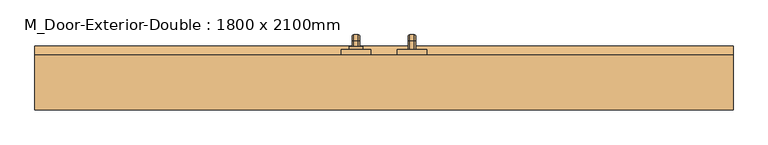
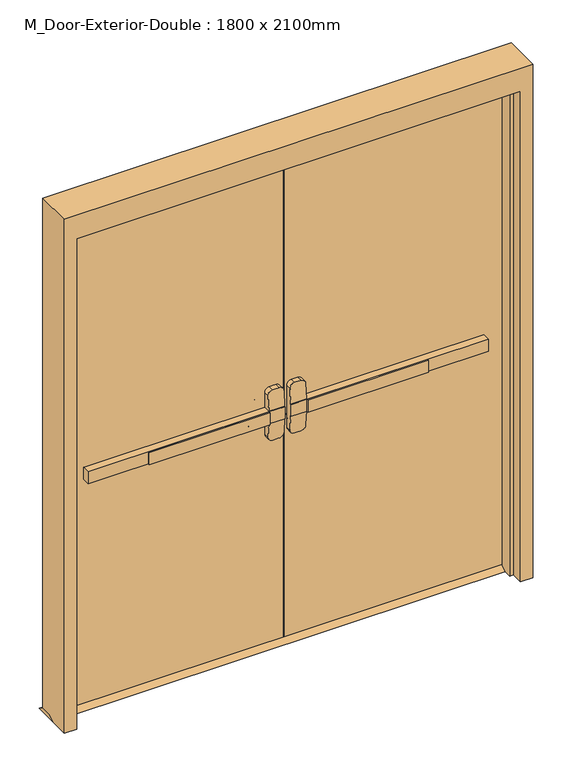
"""IFC4 building model written with IfcOpenShell, lengths in millimetres: door geometry, M_Door-Exterior-Double : 1800 x 2100mm."""

from ifc_helpers import new_model, si_unit, point, frame, frame_2d, origin, place, context, project, spatial, polyline, circle_curve, ellipse_curve, trimmed, segment, composite_curve, outline, extrude, faceted_brep, source, transform, mapped, element, save
from ifc_brep_helpers import plane_surface, cylinder_surface, revolved_surface, advanced_brep


def m_door_exterior_double_1800_x_2100mm_0d7f6d30(model_context):
    return source(origin(), model_context, "Body", "SolidModel", [
        extrude(outline(polyline([(-566.1333333, 13.25), (-566.1333333, 19.6), (-76.2, 19.6), (-76.2, 13.25), (-566.1333333, 13.25)])), frame((0.0, 0.0, 974.6), z_axis=(0.0, 0.0, 1.0), x_axis=(1.0, 0.0, 0.0)), (0.0, 0.0, 1.0), 50.8),
        advanced_brep(
        [(-12.7, 19.6, 1025.4), (-76.2, 19.6, 1025.4), (-811.1, 19.6, 1025.4), (-811.1, 19.6, 974.6), (-76.2, 19.6, 974.6), (-12.7, 19.6, 974.6), (-811.1, 51.35, 1025.4), (-76.2, 51.35, 1025.4), (-76.2, 51.35, 1088.9), (-57.15, 51.35, 1107.95), (-31.75, 51.35, 1107.95), (-12.7, 51.35, 1088.9), (-12.7, 51.35, 911.1), (-31.75, 51.35, 892.05), (-57.15, 51.35, 892.05), (-76.2, 51.35, 911.1), (-76.2, 51.35, 974.6), (-811.1, 51.35, 974.6), (-12.7, 22.7752467, 1025.4), (-76.2, 22.7752467, 1025.4), (-12.7, 22.7752467, 974.6), (-12.7, 27.7854269, 911.1), (-12.7, 27.7854269, 1088.9), (-76.2, 22.7752467, 974.6), (-76.2, 27.7854269, 1088.9), (-76.2, 27.7854269, 911.1), (-57.15, 29.288481, 1107.95), (-31.75, 29.288481, 1107.95), (-31.75, 29.288481, 892.05), (-57.15, 29.288481, 892.05)],
        [
            (0, 1),
            (1, 2),
            (2, 3),
            (3, 4),
            (4, 5),
            (5, 0),
            (6, 7),
            (7, 8),
            (8, 9, circle_curve(frame((-57.15, 51.35, 1088.9), z_axis=(0.0, 1.0, 0.0), x_axis=(-1.0, 0.0, 0.0)), 19.05)),
            (9, 10),
            (10, 11, circle_curve(frame((-31.75, 51.35, 1088.9), z_axis=(0.0, 1.0, 0.0), x_axis=(-1.0, 0.0, 0.0)), 19.05)),
            (11, 12),
            (12, 13, circle_curve(frame((-31.75, 51.35, 911.1), z_axis=(0.0, 1.0, 0.0), x_axis=(-1.0, 0.0, 0.0)), 19.05)),
            (13, 14),
            (14, 15, circle_curve(frame((-57.15, 51.35, 911.1), z_axis=(0.0, 1.0, 0.0), x_axis=(-1.0, 0.0, 0.0)), 19.05)),
            (15, 16),
            (16, 17),
            (17, 6),
            (0, 18),
            (18, 19),
            (19, 7),
            (6, 2),
            (5, 20),
            (20, 21),
            (21, 12),
            (11, 22),
            (22, 18),
            (16, 23),
            (23, 20),
            (3, 17),
            (19, 24),
            (24, 8),
            (15, 25),
            (25, 23),
            (9, 26),
            (26, 27),
            (27, 10),
            (13, 28),
            (28, 29),
            (29, 14),
            (29, 25, ellipse_curve(frame((-57.15, 27.7854269, 911.1), z_axis=(0.0, 0.9969018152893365, 0.07865602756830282), x_axis=(0.0, -0.07865602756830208, 0.9969018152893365)), 19.1092038, 19.05)),
            (24, 26, ellipse_curve(frame((-57.15, 27.7854269, 1088.9), z_axis=(0.0, 0.9969018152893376, -0.07865602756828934), x_axis=(0.0, -0.078656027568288, -0.9969018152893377)), 19.1092038, 19.05)),
            (27, 22, ellipse_curve(frame((-31.75, 27.7854269, 1088.9), z_axis=(0.0, 0.9969018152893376, -0.07865602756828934), x_axis=(0.0, -0.078656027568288, -0.9969018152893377)), 19.1092038, 19.05)),
            (21, 28, ellipse_curve(frame((-31.75, 27.7854269, 911.1), z_axis=(0.0, 0.9969018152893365, 0.07865602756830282), x_axis=(0.0, -0.07865602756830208, 0.9969018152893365)), 19.1092038, 19.05)),
        ],
        [
            plane_surface(frame((-12.7, 19.6, 1025.4), z_axis=(0.0, -1.0, 0.0), x_axis=(1.0, 0.0, 0.0))),
            plane_surface(frame((-12.7, 51.35, 1025.4), z_axis=(0.0, 1.0, 0.0), x_axis=(-1.0, 0.0, 0.0))),
            plane_surface(frame((-811.1, 19.6, 1025.4), z_axis=(0.0, 0.0, 1.0), x_axis=(0.0, 1.0, 0.0))),
            plane_surface(frame((-12.7, 19.6, 1025.4), z_axis=(1.0, 0.0, 0.0), x_axis=(0.0, 1.0, 0.0))),
            plane_surface(frame((-12.7, 19.6, 974.6), z_axis=(0.0, 0.0, -1.0), x_axis=(0.0, 1.0, 0.0))),
            plane_surface(frame((-811.1, 19.6, 974.6), z_axis=(-1.0, 0.0, 0.0), x_axis=(0.0, 1.0, 0.0))),
            plane_surface(frame((-76.2, 22.7752467, 911.1), z_axis=(-1.0, 0.0, 0.0), x_axis=(0.0, 1.0, 0.0))),
            plane_surface(frame((-57.15, 22.7752467, 1107.95), z_axis=(0.0, 0.0, 1.0), x_axis=(0.0, 1.0, 0.0))),
            plane_surface(frame((-31.75, 22.7752467, 892.05), z_axis=(0.0, 0.0, -1.0), x_axis=(0.0, 1.0, 0.0))),
            cylinder_surface(frame((-57.15, 51.35, 911.1), z_axis=(0.0, -1.0, 0.0), x_axis=(-1.0, 0.0, 0.0)), 19.05),
            cylinder_surface(frame((-57.15, 51.35, 1088.9), z_axis=(0.0, -1.0, 0.0), x_axis=(-1.0, 0.0, 0.0)), 19.05),
            cylinder_surface(frame((-31.75, 51.35, 1088.9), z_axis=(0.0, -1.0, 0.0), x_axis=(-1.0, 0.0, 0.0)), 19.05),
            cylinder_surface(frame((-31.75, 51.35, 911.1), z_axis=(0.0, -1.0, 0.0), x_axis=(-1.0, 0.0, 0.0)), 19.05),
            plane_surface(frame((-76.2, 22.7752467, 1025.4), z_axis=(0.0, -0.9969018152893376, 0.07865602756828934), x_axis=(1.0, 0.0, 0.0))),
            plane_surface(frame((-76.2, 29.288481, 892.05), z_axis=(0.0, -0.9969018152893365, -0.07865602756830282), x_axis=(1.0, 0.0, 0.0))),
        ],
        [
            (0, [[1, 2, 3, 4, 5, 6]]),
            (1, [[7, 8, 9, 10, 11, 12, 13, 14, 15, 16, 17, 18]]),
            (2, [[-2, -1, 19, 20, 21, -7, 22]]),
            (3, [[23, 24, 25, -12, 26, 27, -19, -6]]),
            (4, [[-17, 28, 29, -23, -5, -4, 30]]),
            (5, [[-22, -18, -30, -3]]),
            (6, [[-21, 31, 32, -8]]),
            (6, [[33, 34, -28, -16]]),
            (7, [[35, 36, 37, -10]]),
            (8, [[38, 39, 40, -14]]),
            (9, [[-40, 41, -33, -15]]),
            (10, [[-32, 42, -35, -9]]),
            (11, [[-37, 43, -26, -11]]),
            (12, [[-25, 44, -38, -13]]),
            (13, [[-27, -43, -36, -42, -31, -20]]),
            (14, [[-29, -34, -41, -39, -44, -24]]),
        ],
    ),
        extrude(outline(polyline([(96.35, 15.0), (121.75, 0.0), (25.95, 0.0), (51.35, 15.0), (96.35, 15.0)])), frame((-950.0, 0.0, 0.0), z_axis=(1.0, 0.0, 0.0), x_axis=(0.0, 1.0, 0.0)), (0.0, 0.0, 1.0), 1900.0),
        extrude(outline(polyline([(566.1333333, 13.25), (76.2, 13.25), (76.2, 19.6), (566.1333333, 19.6), (566.1333333, 13.25)])), frame((0.0, 0.0, 974.6), z_axis=(0.0, 0.0, 1.0), x_axis=(1.0, 0.0, 0.0)), (0.0, 0.0, 1.0), 50.8),
        advanced_brep(
        [(12.7, 19.6, 1025.4), (12.7, 19.6, 974.6), (76.2, 19.6, 974.6), (811.1, 19.6, 974.6), (811.1, 19.6, 1025.4), (76.2, 19.6, 1025.4), (811.1, 51.35, 1025.4), (811.1, 51.35, 974.6), (76.2, 51.35, 974.6), (76.2, 51.35, 911.1), (57.15, 51.35, 892.05), (31.75, 51.35, 892.05), (12.7, 51.35, 911.1), (12.7, 51.35, 1088.9), (31.75, 51.35, 1107.95), (57.15, 51.35, 1107.95), (76.2, 51.35, 1088.9), (76.2, 51.35, 1025.4), (76.2, 22.7752467, 1025.4), (12.7, 22.7752467, 1025.4), (12.7, 27.7854269, 1088.9), (12.7, 27.7854269, 911.1), (12.7, 22.7752467, 974.6), (76.2, 22.7752467, 974.6), (76.2, 27.7854269, 911.1), (76.2, 27.7854269, 1088.9), (31.75, 29.288481, 1107.95), (57.15, 29.288481, 1107.95), (57.15, 29.288481, 892.05), (31.75, 29.288481, 892.05)],
        [
            (0, 1),
            (1, 2),
            (2, 3),
            (3, 4),
            (4, 5),
            (5, 0),
            (6, 7),
            (7, 8),
            (8, 9),
            (9, 10, circle_curve(frame((57.15, 51.35, 911.1), z_axis=(0.0, 1.0, 0.0), x_axis=(1.0, 0.0, 0.0)), 19.05)),
            (10, 11),
            (11, 12, circle_curve(frame((31.75, 51.35, 911.1), z_axis=(0.0, 1.0, 0.0), x_axis=(1.0, 0.0, 0.0)), 19.05)),
            (12, 13),
            (13, 14, circle_curve(frame((31.75, 51.35, 1088.9), z_axis=(0.0, 1.0, 0.0), x_axis=(1.0, 0.0, 0.0)), 19.05)),
            (14, 15),
            (15, 16, circle_curve(frame((57.15, 51.35, 1088.9), z_axis=(0.0, 1.0, 0.0), x_axis=(1.0, 0.0, 0.0)), 19.05)),
            (16, 17),
            (17, 6),
            (4, 6),
            (17, 18),
            (18, 19),
            (19, 0),
            (19, 20),
            (20, 13),
            (12, 21),
            (21, 22),
            (22, 1),
            (7, 3),
            (22, 23),
            (23, 8),
            (23, 24),
            (24, 9),
            (16, 25),
            (25, 18),
            (14, 26),
            (26, 27),
            (27, 15),
            (10, 28),
            (28, 29),
            (29, 11),
            (24, 28, ellipse_curve(frame((57.15, 27.7854269, 911.1), z_axis=(0.0, 0.9969018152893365, 0.07865602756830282), x_axis=(0.0, -0.07865602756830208, 0.9969018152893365)), 19.1092038, 19.05)),
            (27, 25, ellipse_curve(frame((57.15, 27.7854269, 1088.9), z_axis=(0.0, 0.9969018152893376, -0.07865602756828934), x_axis=(0.0, -0.078656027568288, -0.9969018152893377)), 19.1092038, 19.05)),
            (20, 26, ellipse_curve(frame((31.75, 27.7854269, 1088.9), z_axis=(0.0, 0.9969018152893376, -0.07865602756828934), x_axis=(0.0, -0.078656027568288, -0.9969018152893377)), 19.1092038, 19.05)),
            (29, 21, ellipse_curve(frame((31.75, 27.7854269, 911.1), z_axis=(0.0, 0.9969018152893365, 0.07865602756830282), x_axis=(0.0, -0.07865602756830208, 0.9969018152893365)), 19.1092038, 19.05)),
        ],
        [
            plane_surface(frame((12.7, 19.6, 1025.4), z_axis=(0.0, -1.0, 0.0), x_axis=(-1.0, 0.0, 0.0))),
            plane_surface(frame((12.7, 51.35, 1025.4), z_axis=(0.0, 1.0, 0.0), x_axis=(1.0, 0.0, 0.0))),
            plane_surface(frame((811.1, 19.6, 1025.4), z_axis=(0.0, 0.0, 1.0), x_axis=(0.0, 1.0, 0.0))),
            plane_surface(frame((12.7, 19.6, 1025.4), z_axis=(-1.0, 0.0, 0.0), x_axis=(0.0, 1.0, 0.0))),
            plane_surface(frame((12.7, 19.6, 974.6), z_axis=(0.0, 0.0, -1.0), x_axis=(0.0, 1.0, 0.0))),
            plane_surface(frame((811.1, 19.6, 974.6), z_axis=(1.0, 0.0, 0.0), x_axis=(0.0, 1.0, 0.0))),
            plane_surface(frame((76.2, 22.7752467, 911.1), z_axis=(1.0, 0.0, 0.0), x_axis=(0.0, 1.0, 0.0))),
            plane_surface(frame((57.15, 22.7752467, 1107.95), z_axis=(0.0, 0.0, 1.0), x_axis=(0.0, 1.0, 0.0))),
            plane_surface(frame((31.75, 22.7752467, 892.05), z_axis=(0.0, 0.0, -1.0), x_axis=(0.0, 1.0, 0.0))),
            cylinder_surface(frame((57.15, 51.35, 911.1), z_axis=(0.0, -1.0, 0.0), x_axis=(1.0, 0.0, 0.0)), 19.05),
            cylinder_surface(frame((57.15, 51.35, 1088.9), z_axis=(0.0, -1.0, 0.0), x_axis=(1.0, 0.0, 0.0)), 19.05),
            cylinder_surface(frame((31.75, 51.35, 1088.9), z_axis=(0.0, -1.0, 0.0), x_axis=(1.0, 0.0, 0.0)), 19.05),
            cylinder_surface(frame((31.75, 51.35, 911.1), z_axis=(0.0, -1.0, 0.0), x_axis=(1.0, 0.0, 0.0)), 19.05),
            plane_surface(frame((76.2, 22.7752467, 1025.4), z_axis=(0.0, -0.9969018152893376, 0.07865602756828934), x_axis=(-1.0, 0.0, 0.0))),
            plane_surface(frame((76.2, 29.288481, 892.05), z_axis=(0.0, -0.9969018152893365, -0.07865602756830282), x_axis=(-1.0, 0.0, 0.0))),
        ],
        [
            (0, [[1, 2, 3, 4, 5, 6]]),
            (1, [[7, 8, 9, 10, 11, 12, 13, 14, 15, 16, 17, 18]]),
            (2, [[19, -18, 20, 21, 22, -6, -5]]),
            (3, [[-1, -22, 23, 24, -13, 25, 26, 27]]),
            (4, [[28, -3, -2, -27, 29, 30, -8]]),
            (5, [[-4, -28, -7, -19]]),
            (6, [[-9, -30, 31, 32]]),
            (6, [[-17, 33, 34, -20]]),
            (7, [[-15, 35, 36, 37]]),
            (8, [[-11, 38, 39, 40]]),
            (9, [[-10, -32, 41, -38]]),
            (10, [[-16, -37, 42, -33]]),
            (11, [[-14, -24, 43, -35]]),
            (12, [[-12, -40, 44, -25]]),
            (13, [[-21, -34, -42, -36, -43, -23]]),
            (14, [[-26, -44, -39, -41, -31, -29]]),
        ],
    ),
        advanced_brep(
        [(66.2, 109.05, 1001.190625), (66.2, 109.05, 998.809375), (69.771875, 109.05, 995.2375), (82.6284594, 109.05, 995.2375), (86.2, 109.05, 998.8090406), (86.2, 109.05, 1001.190625), (82.628125, 109.05, 1004.7625), (69.771875, 109.05, 1004.7625), (66.2, 109.05, 874.609375), (69.771875, 109.05, 871.0375), (82.628125, 109.05, 871.0375), (86.2, 109.05, 874.609375), (86.2, 109.05, 876.9909594), (82.6284594, 109.05, 880.5625), (69.771875, 109.05, 880.5625), (66.2, 109.05, 876.990625), (66.2, 134.45, 1001.190625), (66.2, 148.340625, 987.3), (66.2, 148.340625, 888.5), (66.2, 134.45, 874.609375), (66.2, 134.45, 876.990625), (66.2, 145.959375, 888.5), (66.2, 145.959375, 987.3), (66.2, 134.45, 998.809375), (69.771875, 134.45, 995.2375), (82.6284594, 134.45, 995.2375), (86.2, 134.45, 998.8090406), (86.2, 145.9590406, 987.3), (86.2, 145.9590406, 888.5), (86.2, 134.45, 876.9909594), (86.2, 134.45, 874.609375), (86.2, 148.340625, 888.5), (86.2, 148.340625, 987.3), (86.2, 134.45, 1001.190625), (82.628125, 134.45, 1004.7625), (69.771875, 134.45, 1004.7625), (69.771875, 142.3875, 987.3), (82.6284594, 142.3875, 987.3), (82.628125, 151.9125, 987.3), (69.771875, 151.9125, 987.3), (69.771875, 142.3875, 888.5), (82.6284594, 142.3875, 888.5), (82.628125, 151.9125, 888.5), (69.771875, 151.9125, 888.5), (69.771875, 134.45, 880.5625), (82.6284594, 134.45, 880.5625), (82.628125, 134.45, 871.0375), (69.771875, 134.45, 871.0375)],
        [
            (0, 1),
            (1, 2, circle_curve(frame((69.771875, 109.05, 998.809375), z_axis=(0.0, -1.0, 0.0), x_axis=(0.0, 0.0, 1.0)), 3.571875)),
            (2, 3),
            (3, 4, circle_curve(frame((82.6284594, 109.05, 998.8090406), z_axis=(0.0, -1.0, 0.0), x_axis=(0.0, 0.0, 1.0)), 3.5715406)),
            (4, 5),
            (5, 6, circle_curve(frame((82.628125, 109.05, 1001.190625), z_axis=(0.0, -1.0, 0.0), x_axis=(0.0, 0.0, 1.0)), 3.571875)),
            (6, 7),
            (7, 0, circle_curve(frame((69.771875, 109.05, 1001.190625), z_axis=(0.0, -1.0, 0.0), x_axis=(0.0, 0.0, 1.0)), 3.571875)),
            (8, 9, circle_curve(frame((69.771875, 109.05, 874.609375), z_axis=(0.0, -1.0, 0.0), x_axis=(0.0, 0.0, -1.0)), 3.571875)),
            (9, 10),
            (10, 11, circle_curve(frame((82.628125, 109.05, 874.609375), z_axis=(0.0, -1.0, 0.0), x_axis=(0.0, 0.0, -1.0)), 3.571875)),
            (11, 12),
            (12, 13, circle_curve(frame((82.6284594, 109.05, 876.9909594), z_axis=(0.0, -1.0, 0.0), x_axis=(0.0, 0.0, -1.0)), 3.5715406)),
            (13, 14),
            (14, 15, circle_curve(frame((69.771875, 109.05, 876.990625), z_axis=(0.0, -1.0, 0.0), x_axis=(0.0, 0.0, -1.0)), 3.571875)),
            (15, 8),
            (0, 16),
            (16, 17, circle_curve(frame((66.2, 134.45, 987.3), z_axis=(-1.0, 0.0, 0.0), x_axis=(0.0, 0.0, 1.0)), 13.890625)),
            (17, 18),
            (18, 19, circle_curve(frame((66.2, 134.45, 888.5), z_axis=(-1.0, 0.0, 0.0), x_axis=(0.0, 1.0, 0.0)), 13.890625)),
            (19, 8),
            (15, 20),
            (20, 21, circle_curve(frame((66.2, 134.45, 888.5), z_axis=(1.0, 0.0, 0.0), x_axis=(0.0, 1.0, 0.0)), 11.509375)),
            (21, 22),
            (22, 23, circle_curve(frame((66.2, 134.45, 987.3), z_axis=(1.0, 0.0, 0.0), x_axis=(0.0, 0.0, 1.0)), 11.509375)),
            (23, 1),
            (23, 24, circle_curve(frame((69.771875, 134.45, 998.809375), z_axis=(0.0, -1.0, 0.0), x_axis=(0.0, 0.0, 1.0)), 3.571875)),
            (24, 2),
            (24, 25),
            (25, 3),
            (25, 26, circle_curve(frame((82.6284594, 134.45, 998.8090406), z_axis=(0.0, -1.0, 0.0), x_axis=(0.0, 0.0, 1.0)), 3.5715406)),
            (26, 4),
            (26, 27, circle_curve(frame((86.2, 134.45, 987.3), z_axis=(-1.0, 0.0, 0.0), x_axis=(0.0, 0.0, 1.0)), 11.5090406)),
            (27, 28),
            (28, 29, circle_curve(frame((86.2, 134.45, 888.5), z_axis=(-1.0, 0.0, 0.0), x_axis=(0.0, 1.0, 0.0)), 11.5090406)),
            (29, 12),
            (11, 30),
            (30, 31, circle_curve(frame((86.2, 134.45, 888.5), z_axis=(1.0, 0.0, 0.0), x_axis=(0.0, 1.0, 0.0)), 13.890625)),
            (31, 32),
            (32, 33, circle_curve(frame((86.2, 134.45, 987.3), z_axis=(1.0, 0.0, 0.0), x_axis=(0.0, 0.0, 1.0)), 13.890625)),
            (33, 5),
            (33, 34, circle_curve(frame((82.628125, 134.45, 1001.190625), z_axis=(0.0, -1.0, 0.0), x_axis=(0.0, 0.0, 1.0)), 3.571875)),
            (34, 6),
            (34, 35),
            (35, 7),
            (35, 16, circle_curve(frame((69.771875, 134.45, 1001.190625), z_axis=(0.0, -1.0, 0.0), x_axis=(0.0, 0.0, 1.0)), 3.571875)),
            (36, 24, circle_curve(frame((69.771875, 134.45, 987.3), z_axis=(1.0, 0.0, 0.0), x_axis=(0.0, 0.0, 1.0)), 7.9375)),
            (22, 36, circle_curve(frame((69.771875, 145.959375, 987.3), z_axis=(0.0, 0.0, 1.0), x_axis=(0.0, 1.0, 0.0)), 3.571875)),
            (37, 25, circle_curve(frame((82.6284594, 134.45, 987.3), z_axis=(1.0, 0.0, 0.0), x_axis=(0.0, 0.0, 1.0)), 7.9375)),
            (36, 37),
            (37, 27, circle_curve(frame((82.6284594, 145.9590406, 987.3), z_axis=(0.0, 0.0, 1.0), x_axis=(0.0, 1.0, 0.0)), 3.5715406)),
            (38, 34, circle_curve(frame((82.628125, 134.45, 987.3), z_axis=(1.0, 0.0, 0.0), x_axis=(0.0, 0.0, 1.0)), 17.4625)),
            (32, 38, circle_curve(frame((82.628125, 148.340625, 987.3), z_axis=(0.0, 0.0, 1.0), x_axis=(0.0, 1.0, 0.0)), 3.571875)),
            (39, 35, circle_curve(frame((69.771875, 134.45, 987.3), z_axis=(1.0, 0.0, 0.0), x_axis=(0.0, 0.0, 1.0)), 17.4625)),
            (38, 39),
            (39, 17, circle_curve(frame((69.771875, 148.340625, 987.3), z_axis=(0.0, 0.0, 1.0), x_axis=(0.0, 1.0, 0.0)), 3.571875)),
            (21, 40, circle_curve(frame((69.771875, 145.959375, 888.5), z_axis=(0.0, 0.0, 1.0), x_axis=(0.0, 1.0, 0.0)), 3.571875)),
            (40, 36),
            (40, 41),
            (41, 37),
            (41, 28, circle_curve(frame((82.6284594, 145.9590406, 888.5), z_axis=(0.0, 0.0, 1.0), x_axis=(0.0, 1.0, 0.0)), 3.5715406)),
            (31, 42, circle_curve(frame((82.628125, 148.340625, 888.5), z_axis=(0.0, 0.0, 1.0), x_axis=(0.0, 1.0, 0.0)), 3.571875)),
            (42, 38),
            (42, 43),
            (43, 39),
            (43, 18, circle_curve(frame((69.771875, 148.340625, 888.5), z_axis=(0.0, 0.0, 1.0), x_axis=(0.0, 1.0, 0.0)), 3.571875)),
            (44, 40, circle_curve(frame((69.771875, 134.45, 888.5), z_axis=(1.0, 0.0, 0.0), x_axis=(0.0, 1.0, 0.0)), 7.9375)),
            (20, 44, circle_curve(frame((69.771875, 134.45, 876.990625), z_axis=(0.0, 1.0, 0.0), x_axis=(0.0, 0.0, -1.0)), 3.571875)),
            (45, 41, circle_curve(frame((82.6284594, 134.45, 888.5), z_axis=(1.0, 0.0, 0.0), x_axis=(0.0, 1.0, 0.0)), 7.9375)),
            (44, 45),
            (45, 29, circle_curve(frame((82.6284594, 134.45, 876.9909594), z_axis=(0.0, 1.0, 0.0), x_axis=(0.0, 0.0, -1.0)), 3.5715406)),
            (46, 42, circle_curve(frame((82.628125, 134.45, 888.5), z_axis=(1.0, 0.0, 0.0), x_axis=(0.0, 1.0, 0.0)), 17.4625)),
            (30, 46, circle_curve(frame((82.628125, 134.45, 874.609375), z_axis=(0.0, 1.0, 0.0), x_axis=(0.0, 0.0, -1.0)), 3.571875)),
            (47, 43, circle_curve(frame((69.771875, 134.45, 888.5), z_axis=(1.0, 0.0, 0.0), x_axis=(0.0, 1.0, 0.0)), 17.4625)),
            (46, 47),
            (47, 19, circle_curve(frame((69.771875, 134.45, 874.609375), z_axis=(0.0, 1.0, 0.0), x_axis=(0.0, 0.0, -1.0)), 3.571875)),
            (14, 44),
            (13, 45),
            (10, 46),
            (9, 47),
        ],
        [
            plane_surface(frame((76.2, 109.05, 1000.0), z_axis=(0.0, -1.0, 0.0), x_axis=(1.0, 0.0, 0.0))),
            plane_surface(frame((76.2, 109.05, 875.8), z_axis=(0.0, -1.0, 0.0), x_axis=(1.0, 0.0, 0.0))),
            plane_surface(frame((66.2, 109.05, 1001.190625), z_axis=(-1.0, 0.0, 0.0), x_axis=(0.0, 1.0, 0.0))),
            cylinder_surface(frame((69.771875, 109.05, 998.809375), z_axis=(0.0, -1.0, 0.0), x_axis=(0.0, 0.0, 1.0)), 3.571875),
            plane_surface(frame((69.771875, 109.05, 995.2375), z_axis=(0.0, 0.0, -1.0), x_axis=(0.0, 1.0, 0.0))),
            cylinder_surface(frame((82.6284594, 109.05, 998.8090406), z_axis=(0.0, -1.0, 0.0), x_axis=(0.0, 0.0, 1.0)), 3.5715406),
            plane_surface(frame((86.2, 109.05, 998.8090406), z_axis=(1.0, 0.0, 0.0), x_axis=(0.0, 1.0, 0.0))),
            cylinder_surface(frame((82.628125, 109.05, 1001.190625), z_axis=(0.0, -1.0, 0.0), x_axis=(0.0, 0.0, 1.0)), 3.571875),
            plane_surface(frame((82.628125, 109.05, 1004.7625), z_axis=(0.0, 0.0, 1.0), x_axis=(0.0, 1.0, 0.0))),
            cylinder_surface(frame((69.771875, 109.05, 1001.190625), z_axis=(0.0, -1.0, 0.0), x_axis=(0.0, 0.0, 1.0)), 3.571875),
            revolved_surface(trimmed(ellipse_curve(frame((69.771875, 134.45, 998.809375), z_axis=(0.0, -1.0, 0.0), x_axis=(0.0, 0.0, 1.0)), 3.571875, 3.571875), [point((66.2, 134.45, 998.809375))], [point((69.771875, 134.45, 995.2375))], True, "CARTESIAN"), (76.2, 134.45, 987.3), (-1.0, 0.0, 0.0)),
            revolved_surface(polyline([(69.771875, 134.45, 995.2375), (82.6284594, 134.45, 995.2375)]), (76.2, 134.45, 987.3), (-1.0, 0.0, 0.0)),
            revolved_surface(trimmed(ellipse_curve(frame((82.6284594, 134.45, 998.8090406), z_axis=(0.0, -1.0, 0.0), x_axis=(0.0, 0.0, 1.0)), 3.5715406, 3.5715406), [point((82.6284594, 134.45, 995.2375))], [point((86.2, 134.45, 998.8090406))], True, "CARTESIAN"), (76.2, 134.45, 987.3), (-1.0, 0.0, 0.0)),
            revolved_surface(trimmed(ellipse_curve(frame((82.628125, 134.45, 1001.190625), z_axis=(0.0, -1.0, 0.0), x_axis=(0.0, 0.0, 1.0)), 3.571875, 3.571875), [point((86.2, 134.45, 1001.190625))], [point((82.628125, 134.45, 1004.7625))], True, "CARTESIAN"), (76.2, 134.45, 987.3), (-1.0, 0.0, 0.0)),
            cylinder_surface(frame((76.2, 134.45, 987.3), z_axis=(-1.0, 0.0, 0.0), x_axis=(0.0, 0.0, 1.0)), 17.4625),
            revolved_surface(trimmed(ellipse_curve(frame((69.771875, 134.45, 1001.190625), z_axis=(0.0, -1.0, 0.0), x_axis=(0.0, 0.0, 1.0)), 3.571875, 3.571875), [point((69.771875, 134.45, 1004.7625))], [point((66.2, 134.45, 1001.190625))], True, "CARTESIAN"), (76.2, 134.45, 987.3), (-1.0, 0.0, 0.0)),
            cylinder_surface(frame((69.771875, 145.959375, 987.3), z_axis=(0.0, 0.0, 1.0), x_axis=(0.0, 1.0, 0.0)), 3.571875),
            plane_surface(frame((69.771875, 142.3875, 987.3), z_axis=(0.0, -1.0, 0.0), x_axis=(0.0, 0.0, -1.0))),
            cylinder_surface(frame((82.6284594, 145.9590406, 987.3), z_axis=(0.0, 0.0, 1.0), x_axis=(0.0, 1.0, 0.0)), 3.5715406),
            cylinder_surface(frame((82.628125, 148.340625, 987.3), z_axis=(0.0, 0.0, 1.0), x_axis=(0.0, 1.0, 0.0)), 3.571875),
            plane_surface(frame((82.628125, 151.9125, 987.3), z_axis=(0.0, 1.0, 0.0), x_axis=(0.0, 0.0, -1.0))),
            cylinder_surface(frame((69.771875, 148.340625, 987.3), z_axis=(0.0, 0.0, 1.0), x_axis=(0.0, 1.0, 0.0)), 3.571875),
            revolved_surface(trimmed(ellipse_curve(frame((69.771875, 145.959375, 888.5), z_axis=(0.0, 0.0, 1.0), x_axis=(0.0, 1.0, 0.0)), 3.571875, 3.571875), [point((66.2, 145.959375, 888.5))], [point((69.771875, 142.3875, 888.5))], True, "CARTESIAN"), (76.2, 134.45, 888.5), (-1.0, 0.0, 0.0)),
            revolved_surface(polyline([(69.771875, 142.3875, 888.5), (82.6284594, 142.3875, 888.5)]), (76.2, 134.45, 888.5), (-1.0, 0.0, 0.0)),
            revolved_surface(trimmed(ellipse_curve(frame((82.6284594, 145.9590406, 888.5), z_axis=(0.0, 0.0, 1.0), x_axis=(0.0, 1.0, 0.0)), 3.5715406, 3.5715406), [point((82.6284594, 142.3875, 888.5))], [point((86.2, 145.9590406, 888.5))], True, "CARTESIAN"), (76.2, 134.45, 888.5), (-1.0, 0.0, 0.0)),
            revolved_surface(trimmed(ellipse_curve(frame((82.628125, 148.340625, 888.5), z_axis=(0.0, 0.0, 1.0), x_axis=(0.0, 1.0, 0.0)), 3.571875, 3.571875), [point((86.2, 148.340625, 888.5))], [point((82.628125, 151.9125, 888.5))], True, "CARTESIAN"), (76.2, 134.45, 888.5), (-1.0, 0.0, 0.0)),
            cylinder_surface(frame((76.2, 134.45, 888.5), z_axis=(-1.0, 0.0, 0.0), x_axis=(0.0, 1.0, 0.0)), 17.4625),
            revolved_surface(trimmed(ellipse_curve(frame((69.771875, 148.340625, 888.5), z_axis=(0.0, 0.0, 1.0), x_axis=(0.0, 1.0, 0.0)), 3.571875, 3.571875), [point((69.771875, 151.9125, 888.5))], [point((66.2, 148.340625, 888.5))], True, "CARTESIAN"), (76.2, 134.45, 888.5), (-1.0, 0.0, 0.0)),
            cylinder_surface(frame((69.771875, 134.45, 876.990625), z_axis=(0.0, 1.0, 0.0), x_axis=(0.0, 0.0, -1.0)), 3.571875),
            plane_surface(frame((69.771875, 134.45, 880.5625), z_axis=(0.0, 0.0, 1.0), x_axis=(0.0, -1.0, 0.0))),
            cylinder_surface(frame((82.6284594, 134.45, 876.9909594), z_axis=(0.0, 1.0, 0.0), x_axis=(0.0, 0.0, -1.0)), 3.5715406),
            cylinder_surface(frame((82.628125, 134.45, 874.609375), z_axis=(0.0, 1.0, 0.0), x_axis=(0.0, 0.0, -1.0)), 3.571875),
            plane_surface(frame((82.628125, 134.45, 871.0375), z_axis=(0.0, 0.0, -1.0), x_axis=(0.0, -1.0, 0.0))),
            cylinder_surface(frame((69.771875, 134.45, 874.609375), z_axis=(0.0, 1.0, 0.0), x_axis=(0.0, 0.0, -1.0)), 3.571875),
        ],
        [
            (0, [[1, 2, 3, 4, 5, 6, 7, 8]]),
            (1, [[9, 10, 11, 12, 13, 14, 15, 16]]),
            (2, [[-1, 17, 18, 19, 20, 21, -16, 22, 23, 24, 25, 26]]),
            (3, [[-2, -26, 27, 28]]),
            (4, [[-3, -28, 29, 30]]),
            (5, [[-4, -30, 31, 32]]),
            (6, [[-5, -32, 33, 34, 35, 36, -12, 37, 38, 39, 40, 41]]),
            (7, [[-6, -41, 42, 43]]),
            (8, [[-7, -43, 44, 45]]),
            (9, [[-8, -45, 46, -17]]),
            (10, [[47, -27, -25, 48]]),
            (11, [[49, -29, -47, 50]]),
            (12, [[-33, -31, -49, 51]]),
            (13, [[52, -42, -40, 53]]),
            (14, [[54, -44, -52, 55]]),
            (15, [[-18, -46, -54, 56]]),
            (16, [[-48, -24, 57, 58]]),
            (17, [[-50, -58, 59, 60]]),
            (18, [[-51, -60, 61, -34]]),
            (19, [[-53, -39, 62, 63]]),
            (20, [[-55, -63, 64, 65]]),
            (21, [[-56, -65, 66, -19]]),
            (22, [[67, -57, -23, 68]]),
            (23, [[69, -59, -67, 70]]),
            (24, [[-35, -61, -69, 71]]),
            (25, [[72, -62, -38, 73]]),
            (26, [[74, -64, -72, 75]]),
            (27, [[-20, -66, -74, 76]]),
            (28, [[-68, -22, -15, 77]]),
            (29, [[-70, -77, -14, 78]]),
            (30, [[-71, -78, -13, -36]]),
            (31, [[-73, -37, -11, 79]]),
            (32, [[-75, -79, -10, 80]]),
            (33, [[-76, -80, -9, -21]]),
        ],
    ),
        extrude(outline(composite_curve([segment(trimmed(circle_curve(frame_2d((1094.2338574, 76.2)), 90.1286291), [point((1175.0, 116.2))], [point((1175.0, 36.2))], False, "CARTESIAN"), True, "CONTINUOUS"), segment(polyline([(1175.0, 36.2), (825.0, 36.2)]), True, "CONTINUOUS"), segment(trimmed(circle_curve(frame_2d((905.7661426, 76.2)), 90.1286291), [point((825.0, 36.2))], [point((825.0, 116.2))], False, "CARTESIAN"), True, "CONTINUOUS"), segment(polyline([(825.0, 116.2), (1175.0, 116.2)]), True, "CONTINUOUS")], self_intersect=False)), frame((0.0, 96.35, 0.0), z_axis=(0.0, 1.0, 0.0), x_axis=(0.0, 0.0, 1.0)), (0.0, 0.0, 1.0), 15.0),
        advanced_brep(
        [(-86.2, 109.05, 1001.190625), (-86.2, 109.05, 998.809375), (-82.628125, 109.05, 995.2375), (-69.7715406, 109.05, 995.2375), (-66.2, 109.05, 998.8090406), (-66.2, 109.05, 1001.190625), (-69.771875, 109.05, 1004.7625), (-82.628125, 109.05, 1004.7625), (-86.2, 109.05, 874.609375), (-82.628125, 109.05, 871.0375), (-69.771875, 109.05, 871.0375), (-66.2, 109.05, 874.609375), (-66.2, 109.05, 876.9909594), (-69.7715406, 109.05, 880.5625), (-82.628125, 109.05, 880.5625), (-86.2, 109.05, 876.990625), (-86.2, 134.45, 1001.190625), (-86.2, 148.340625, 987.3), (-86.2, 148.340625, 888.5), (-86.2, 134.45, 874.609375), (-86.2, 134.45, 876.990625), (-86.2, 145.959375, 888.5), (-86.2, 145.959375, 987.3), (-86.2, 134.45, 998.809375), (-82.628125, 134.45, 995.2375), (-69.7715406, 134.45, 995.2375), (-66.2, 134.45, 998.8090406), (-66.2, 145.9590406, 987.3), (-66.2, 145.9590406, 888.5), (-66.2, 134.45, 876.9909594), (-66.2, 134.45, 874.609375), (-66.2, 148.340625, 888.5), (-66.2, 148.340625, 987.3), (-66.2, 134.45, 1001.190625), (-69.771875, 134.45, 1004.7625), (-82.628125, 134.45, 1004.7625), (-82.628125, 142.3875, 987.3), (-69.7715406, 142.3875, 987.3), (-69.771875, 151.9125, 987.3), (-82.628125, 151.9125, 987.3), (-82.628125, 142.3875, 888.5), (-69.7715406, 142.3875, 888.5), (-69.771875, 151.9125, 888.5), (-82.628125, 151.9125, 888.5), (-82.628125, 134.45, 880.5625), (-69.7715406, 134.45, 880.5625), (-69.771875, 134.45, 871.0375), (-82.628125, 134.45, 871.0375)],
        [
            (0, 1),
            (1, 2, circle_curve(frame((-82.628125, 109.05, 998.809375), z_axis=(0.0, -1.0, 0.0), x_axis=(0.0, 0.0, 1.0)), 3.571875)),
            (2, 3),
            (3, 4, circle_curve(frame((-69.7715406, 109.05, 998.8090406), z_axis=(0.0, -1.0, 0.0), x_axis=(0.0, 0.0, 1.0)), 3.5715406)),
            (4, 5),
            (5, 6, circle_curve(frame((-69.771875, 109.05, 1001.190625), z_axis=(0.0, -1.0, 0.0), x_axis=(0.0, 0.0, 1.0)), 3.571875)),
            (6, 7),
            (7, 0, circle_curve(frame((-82.628125, 109.05, 1001.190625), z_axis=(0.0, -1.0, 0.0), x_axis=(0.0, 0.0, 1.0)), 3.571875)),
            (8, 9, circle_curve(frame((-82.628125, 109.05, 874.609375), z_axis=(0.0, -1.0, 0.0), x_axis=(0.0, 0.0, -1.0)), 3.571875)),
            (9, 10),
            (10, 11, circle_curve(frame((-69.771875, 109.05, 874.609375), z_axis=(0.0, -1.0, 0.0), x_axis=(0.0, 0.0, -1.0)), 3.571875)),
            (11, 12),
            (12, 13, circle_curve(frame((-69.7715406, 109.05, 876.9909594), z_axis=(0.0, -1.0, 0.0), x_axis=(0.0, 0.0, -1.0)), 3.5715406)),
            (13, 14),
            (14, 15, circle_curve(frame((-82.628125, 109.05, 876.990625), z_axis=(0.0, -1.0, 0.0), x_axis=(0.0, 0.0, -1.0)), 3.571875)),
            (15, 8),
            (0, 16),
            (16, 17, circle_curve(frame((-86.2, 134.45, 987.3), z_axis=(-1.0, 0.0, 0.0), x_axis=(0.0, 0.0, 1.0)), 13.890625)),
            (17, 18),
            (18, 19, circle_curve(frame((-86.2, 134.45, 888.5), z_axis=(-1.0, 0.0, 0.0), x_axis=(0.0, 1.0, 0.0)), 13.890625)),
            (19, 8),
            (15, 20),
            (20, 21, circle_curve(frame((-86.2, 134.45, 888.5), z_axis=(1.0, 0.0, 0.0), x_axis=(0.0, 1.0, 0.0)), 11.509375)),
            (21, 22),
            (22, 23, circle_curve(frame((-86.2, 134.45, 987.3), z_axis=(1.0, 0.0, 0.0), x_axis=(0.0, 0.0, 1.0)), 11.509375)),
            (23, 1),
            (23, 24, circle_curve(frame((-82.628125, 134.45, 998.809375), z_axis=(0.0, -1.0, 0.0), x_axis=(0.0, 0.0, 1.0)), 3.571875)),
            (24, 2),
            (24, 25),
            (25, 3),
            (25, 26, circle_curve(frame((-69.7715406, 134.45, 998.8090406), z_axis=(0.0, -1.0, 0.0), x_axis=(0.0, 0.0, 1.0)), 3.5715406)),
            (26, 4),
            (26, 27, circle_curve(frame((-66.2, 134.45, 987.3), z_axis=(-1.0, 0.0, 0.0), x_axis=(0.0, 0.0, 1.0)), 11.5090406)),
            (27, 28),
            (28, 29, circle_curve(frame((-66.2, 134.45, 888.5), z_axis=(-1.0, 0.0, 0.0), x_axis=(0.0, 1.0, 0.0)), 11.5090406)),
            (29, 12),
            (11, 30),
            (30, 31, circle_curve(frame((-66.2, 134.45, 888.5), z_axis=(1.0, 0.0, 0.0), x_axis=(0.0, 1.0, 0.0)), 13.890625)),
            (31, 32),
            (32, 33, circle_curve(frame((-66.2, 134.45, 987.3), z_axis=(1.0, 0.0, 0.0), x_axis=(0.0, 0.0, 1.0)), 13.890625)),
            (33, 5),
            (33, 34, circle_curve(frame((-69.771875, 134.45, 1001.190625), z_axis=(0.0, -1.0, 0.0), x_axis=(0.0, 0.0, 1.0)), 3.571875)),
            (34, 6),
            (34, 35),
            (35, 7),
            (35, 16, circle_curve(frame((-82.628125, 134.45, 1001.190625), z_axis=(0.0, -1.0, 0.0), x_axis=(0.0, 0.0, 1.0)), 3.571875)),
            (36, 24, circle_curve(frame((-82.628125, 134.45, 987.3), z_axis=(1.0, 0.0, 0.0), x_axis=(0.0, 0.0, 1.0)), 7.9375)),
            (22, 36, circle_curve(frame((-82.628125, 145.959375, 987.3), z_axis=(0.0, 0.0, 1.0), x_axis=(0.0, 1.0, 0.0)), 3.571875)),
            (37, 25, circle_curve(frame((-69.7715406, 134.45, 987.3), z_axis=(1.0, 0.0, 0.0), x_axis=(0.0, 0.0, 1.0)), 7.9375)),
            (36, 37),
            (37, 27, circle_curve(frame((-69.7715406, 145.9590406, 987.3), z_axis=(0.0, 0.0, 1.0), x_axis=(0.0, 1.0, 0.0)), 3.5715406)),
            (38, 34, circle_curve(frame((-69.771875, 134.45, 987.3), z_axis=(1.0, 0.0, 0.0), x_axis=(0.0, 0.0, 1.0)), 17.4625)),
            (32, 38, circle_curve(frame((-69.771875, 148.340625, 987.3), z_axis=(0.0, 0.0, 1.0), x_axis=(0.0, 1.0, 0.0)), 3.571875)),
            (39, 35, circle_curve(frame((-82.628125, 134.45, 987.3), z_axis=(1.0, 0.0, 0.0), x_axis=(0.0, 0.0, 1.0)), 17.4625)),
            (38, 39),
            (39, 17, circle_curve(frame((-82.628125, 148.340625, 987.3), z_axis=(0.0, 0.0, 1.0), x_axis=(0.0, 1.0, 0.0)), 3.571875)),
            (21, 40, circle_curve(frame((-82.628125, 145.959375, 888.5), z_axis=(0.0, 0.0, 1.0), x_axis=(0.0, 1.0, 0.0)), 3.571875)),
            (40, 36),
            (40, 41),
            (41, 37),
            (41, 28, circle_curve(frame((-69.7715406, 145.9590406, 888.5), z_axis=(0.0, 0.0, 1.0), x_axis=(0.0, 1.0, 0.0)), 3.5715406)),
            (31, 42, circle_curve(frame((-69.771875, 148.340625, 888.5), z_axis=(0.0, 0.0, 1.0), x_axis=(0.0, 1.0, 0.0)), 3.571875)),
            (42, 38),
            (42, 43),
            (43, 39),
            (43, 18, circle_curve(frame((-82.628125, 148.340625, 888.5), z_axis=(0.0, 0.0, 1.0), x_axis=(0.0, 1.0, 0.0)), 3.571875)),
            (44, 40, circle_curve(frame((-82.628125, 134.45, 888.5), z_axis=(1.0, 0.0, 0.0), x_axis=(0.0, 1.0, 0.0)), 7.9375)),
            (20, 44, circle_curve(frame((-82.628125, 134.45, 876.990625), z_axis=(0.0, 1.0, 0.0), x_axis=(0.0, 0.0, -1.0)), 3.571875)),
            (45, 41, circle_curve(frame((-69.7715406, 134.45, 888.5), z_axis=(1.0, 0.0, 0.0), x_axis=(0.0, 1.0, 0.0)), 7.9375)),
            (44, 45),
            (45, 29, circle_curve(frame((-69.7715406, 134.45, 876.9909594), z_axis=(0.0, 1.0, 0.0), x_axis=(0.0, 0.0, -1.0)), 3.5715406)),
            (46, 42, circle_curve(frame((-69.771875, 134.45, 888.5), z_axis=(1.0, 0.0, 0.0), x_axis=(0.0, 1.0, 0.0)), 17.4625)),
            (30, 46, circle_curve(frame((-69.771875, 134.45, 874.609375), z_axis=(0.0, 1.0, 0.0), x_axis=(0.0, 0.0, -1.0)), 3.571875)),
            (47, 43, circle_curve(frame((-82.628125, 134.45, 888.5), z_axis=(1.0, 0.0, 0.0), x_axis=(0.0, 1.0, 0.0)), 17.4625)),
            (46, 47),
            (47, 19, circle_curve(frame((-82.628125, 134.45, 874.609375), z_axis=(0.0, 1.0, 0.0), x_axis=(0.0, 0.0, -1.0)), 3.571875)),
            (14, 44),
            (13, 45),
            (10, 46),
            (9, 47),
        ],
        [
            plane_surface(frame((-76.2, 109.05, 1000.0), z_axis=(0.0, -1.0, 0.0), x_axis=(1.0, 0.0, 0.0))),
            plane_surface(frame((-76.2, 109.05, 875.8), z_axis=(0.0, -1.0, 0.0), x_axis=(1.0, 0.0, 0.0))),
            plane_surface(frame((-86.2, 109.05, 1001.190625), z_axis=(-1.0, 0.0, 0.0), x_axis=(0.0, 1.0, 0.0))),
            cylinder_surface(frame((-82.628125, 109.05, 998.809375), z_axis=(0.0, -1.0, 0.0), x_axis=(0.0, 0.0, 1.0)), 3.571875),
            plane_surface(frame((-82.628125, 109.05, 995.2375), z_axis=(0.0, 0.0, -1.0), x_axis=(0.0, 1.0, 0.0))),
            cylinder_surface(frame((-69.7715406, 109.05, 998.8090406), z_axis=(0.0, -1.0, 0.0), x_axis=(0.0, 0.0, 1.0)), 3.5715406),
            plane_surface(frame((-66.2, 109.05, 998.8090406), z_axis=(1.0, 0.0, 0.0), x_axis=(0.0, 1.0, 0.0))),
            cylinder_surface(frame((-69.771875, 109.05, 1001.190625), z_axis=(0.0, -1.0, 0.0), x_axis=(0.0, 0.0, 1.0)), 3.571875),
            plane_surface(frame((-69.771875, 109.05, 1004.7625), z_axis=(0.0, 0.0, 1.0), x_axis=(0.0, 1.0, 0.0))),
            cylinder_surface(frame((-82.628125, 109.05, 1001.190625), z_axis=(0.0, -1.0, 0.0), x_axis=(0.0, 0.0, 1.0)), 3.571875),
            revolved_surface(trimmed(ellipse_curve(frame((-82.628125, 134.45, 998.809375), z_axis=(0.0, -1.0, 0.0), x_axis=(0.0, 0.0, 1.0)), 3.571875, 3.571875), [point((-86.2, 134.45, 998.809375))], [point((-82.628125, 134.45, 995.2375))], True, "CARTESIAN"), (-76.2, 134.45, 987.3), (-1.0, 0.0, 0.0)),
            revolved_surface(polyline([(-82.628125, 134.45, 995.2375), (-69.7715406, 134.45, 995.2375)]), (-76.2, 134.45, 987.3), (-1.0, 0.0, 0.0)),
            revolved_surface(trimmed(ellipse_curve(frame((-69.7715406, 134.45, 998.8090406), z_axis=(0.0, -1.0, 0.0), x_axis=(0.0, 0.0, 1.0)), 3.5715406, 3.5715406), [point((-69.7715406, 134.45, 995.2375))], [point((-66.2, 134.45, 998.8090406))], True, "CARTESIAN"), (-76.2, 134.45, 987.3), (-1.0, 0.0, 0.0)),
            revolved_surface(trimmed(ellipse_curve(frame((-69.771875, 134.45, 1001.190625), z_axis=(0.0, -1.0, 0.0), x_axis=(0.0, 0.0, 1.0)), 3.571875, 3.571875), [point((-66.2, 134.45, 1001.190625))], [point((-69.771875, 134.45, 1004.7625))], True, "CARTESIAN"), (-76.2, 134.45, 987.3), (-1.0, 0.0, 0.0)),
            cylinder_surface(frame((-76.2, 134.45, 987.3), z_axis=(-1.0, 0.0, 0.0), x_axis=(0.0, 0.0, 1.0)), 17.4625),
            revolved_surface(trimmed(ellipse_curve(frame((-82.628125, 134.45, 1001.190625), z_axis=(0.0, -1.0, 0.0), x_axis=(0.0, 0.0, 1.0)), 3.571875, 3.571875), [point((-82.628125, 134.45, 1004.7625))], [point((-86.2, 134.45, 1001.190625))], True, "CARTESIAN"), (-76.2, 134.45, 987.3), (-1.0, 0.0, 0.0)),
            cylinder_surface(frame((-82.628125, 145.959375, 987.3), z_axis=(0.0, 0.0, 1.0), x_axis=(0.0, 1.0, 0.0)), 3.571875),
            plane_surface(frame((-82.628125, 142.3875, 987.3), z_axis=(0.0, -1.0, 0.0), x_axis=(0.0, 0.0, -1.0))),
            cylinder_surface(frame((-69.7715406, 145.9590406, 987.3), z_axis=(0.0, 0.0, 1.0), x_axis=(0.0, 1.0, 0.0)), 3.5715406),
            cylinder_surface(frame((-69.771875, 148.340625, 987.3), z_axis=(0.0, 0.0, 1.0), x_axis=(0.0, 1.0, 0.0)), 3.571875),
            plane_surface(frame((-69.771875, 151.9125, 987.3), z_axis=(0.0, 1.0, 0.0), x_axis=(0.0, 0.0, -1.0))),
            cylinder_surface(frame((-82.628125, 148.340625, 987.3), z_axis=(0.0, 0.0, 1.0), x_axis=(0.0, 1.0, 0.0)), 3.571875),
            revolved_surface(trimmed(ellipse_curve(frame((-82.628125, 145.959375, 888.5), z_axis=(0.0, 0.0, 1.0), x_axis=(0.0, 1.0, 0.0)), 3.571875, 3.571875), [point((-86.2, 145.959375, 888.5))], [point((-82.628125, 142.3875, 888.5))], True, "CARTESIAN"), (-76.2, 134.45, 888.5), (-1.0, 0.0, 0.0)),
            revolved_surface(polyline([(-82.628125, 142.3875, 888.5), (-69.7715406, 142.3875, 888.5)]), (-76.2, 134.45, 888.5), (-1.0, 0.0, 0.0)),
            revolved_surface(trimmed(ellipse_curve(frame((-69.7715406, 145.9590406, 888.5), z_axis=(0.0, 0.0, 1.0), x_axis=(0.0, 1.0, 0.0)), 3.5715406, 3.5715406), [point((-69.7715406, 142.3875, 888.5))], [point((-66.2, 145.9590406, 888.5))], True, "CARTESIAN"), (-76.2, 134.45, 888.5), (-1.0, 0.0, 0.0)),
            revolved_surface(trimmed(ellipse_curve(frame((-69.771875, 148.340625, 888.5), z_axis=(0.0, 0.0, 1.0), x_axis=(0.0, 1.0, 0.0)), 3.571875, 3.571875), [point((-66.2, 148.340625, 888.5))], [point((-69.771875, 151.9125, 888.5))], True, "CARTESIAN"), (-76.2, 134.45, 888.5), (-1.0, 0.0, 0.0)),
            cylinder_surface(frame((-76.2, 134.45, 888.5), z_axis=(-1.0, 0.0, 0.0), x_axis=(0.0, 1.0, 0.0)), 17.4625),
            revolved_surface(trimmed(ellipse_curve(frame((-82.628125, 148.340625, 888.5), z_axis=(0.0, 0.0, 1.0), x_axis=(0.0, 1.0, 0.0)), 3.571875, 3.571875), [point((-82.628125, 151.9125, 888.5))], [point((-86.2, 148.340625, 888.5))], True, "CARTESIAN"), (-76.2, 134.45, 888.5), (-1.0, 0.0, 0.0)),
            cylinder_surface(frame((-82.628125, 134.45, 876.990625), z_axis=(0.0, 1.0, 0.0), x_axis=(0.0, 0.0, -1.0)), 3.571875),
            plane_surface(frame((-82.628125, 134.45, 880.5625), z_axis=(0.0, 0.0, 1.0), x_axis=(0.0, -1.0, 0.0))),
            cylinder_surface(frame((-69.7715406, 134.45, 876.9909594), z_axis=(0.0, 1.0, 0.0), x_axis=(0.0, 0.0, -1.0)), 3.5715406),
            cylinder_surface(frame((-69.771875, 134.45, 874.609375), z_axis=(0.0, 1.0, 0.0), x_axis=(0.0, 0.0, -1.0)), 3.571875),
            plane_surface(frame((-69.771875, 134.45, 871.0375), z_axis=(0.0, 0.0, -1.0), x_axis=(0.0, -1.0, 0.0))),
            cylinder_surface(frame((-82.628125, 134.45, 874.609375), z_axis=(0.0, 1.0, 0.0), x_axis=(0.0, 0.0, -1.0)), 3.571875),
        ],
        [
            (0, [[1, 2, 3, 4, 5, 6, 7, 8]]),
            (1, [[9, 10, 11, 12, 13, 14, 15, 16]]),
            (2, [[-1, 17, 18, 19, 20, 21, -16, 22, 23, 24, 25, 26]]),
            (3, [[-2, -26, 27, 28]]),
            (4, [[-3, -28, 29, 30]]),
            (5, [[-4, -30, 31, 32]]),
            (6, [[-5, -32, 33, 34, 35, 36, -12, 37, 38, 39, 40, 41]]),
            (7, [[-6, -41, 42, 43]]),
            (8, [[-7, -43, 44, 45]]),
            (9, [[-8, -45, 46, -17]]),
            (10, [[47, -27, -25, 48]]),
            (11, [[49, -29, -47, 50]]),
            (12, [[-33, -31, -49, 51]]),
            (13, [[52, -42, -40, 53]]),
            (14, [[54, -44, -52, 55]]),
            (15, [[-18, -46, -54, 56]]),
            (16, [[-48, -24, 57, 58]]),
            (17, [[-50, -58, 59, 60]]),
            (18, [[-51, -60, 61, -34]]),
            (19, [[-53, -39, 62, 63]]),
            (20, [[-55, -63, 64, 65]]),
            (21, [[-56, -65, 66, -19]]),
            (22, [[67, -57, -23, 68]]),
            (23, [[69, -59, -67, 70]]),
            (24, [[-35, -61, -69, 71]]),
            (25, [[72, -62, -38, 73]]),
            (26, [[74, -64, -72, 75]]),
            (27, [[-20, -66, -74, 76]]),
            (28, [[-68, -22, -15, 77]]),
            (29, [[-70, -77, -14, 78]]),
            (30, [[-71, -78, -13, -36]]),
            (31, [[-73, -37, -11, 79]]),
            (32, [[-75, -79, -10, 80]]),
            (33, [[-76, -80, -9, -21]]),
        ],
    ),
        extrude(outline(composite_curve([segment(trimmed(circle_curve(frame_2d((1098.8, -76.2)), 19.0), [point((1098.8, -95.2))], [point((1098.8, -57.2))], False, "CARTESIAN"), True, "CONTINUOUS"), segment(trimmed(circle_curve(frame_2d((1098.8, -76.2)), 19.0), [point((1098.8, -57.2))], [point((1098.8, -95.2))], False, "CARTESIAN"), True, "CONTINUOUS")], self_intersect=False)), frame((0.0, 111.35, 0.0), z_axis=(0.0, 1.0, 0.0), x_axis=(0.0, 0.0, 1.0)), (0.0, 0.0, 1.0), 8.73125),
        extrude(outline(composite_curve([segment(trimmed(circle_curve(frame_2d((1094.2338574, -76.2)), 90.1286291), [point((1175.0, -36.2))], [point((1175.0, -116.2))], False, "CARTESIAN"), True, "CONTINUOUS"), segment(polyline([(1175.0, -116.2), (825.0, -116.2)]), True, "CONTINUOUS"), segment(trimmed(circle_curve(frame_2d((905.7661426, -76.2)), 90.1286291), [point((825.0, -116.2))], [point((825.0, -36.2))], False, "CARTESIAN"), True, "CONTINUOUS"), segment(polyline([(825.0, -36.2), (1175.0, -36.2)]), True, "CONTINUOUS")], self_intersect=False)), frame((0.0, 96.35, 0.0), z_axis=(0.0, 1.0, 0.0), x_axis=(0.0, 0.0, 1.0)), (0.0, 0.0, 1.0), 15.0),
        faceted_brep([(900.0, 46.5875, 0.0), (900.0, 96.35, 0.0), (950.0, 96.35, 0.0), (950.0, -53.65, 0.0), (900.0, -53.65, 0.0), (900.0, -4.4375, 0.0), (884.125, -4.4375, 0.0), (884.125, 46.5875, 0.0), (900.0, 46.5875, 2100.0), (900.0, 96.35, 2100.0), (-900.0, 96.35, 2100.0), (-900.0, 96.35, 0.0), (-950.0, 96.35, 0.0), (-950.0, 96.35, 2200.0), (950.0, 96.35, 2200.0), (950.0, -53.65, 2200.0), (-950.0, -53.65, 2200.0), (-950.0, -53.65, 0.0), (-900.0, -53.65, 0.0), (-900.0, -53.65, 2100.0), (900.0, -53.65, 2100.0), (900.0, -4.4375, 2100.0), (-900.0, -4.4375, 2100.0), (-900.0, -4.4375, 0.0), (-884.125, -4.4375, 0.0), (-884.125, -4.4375, 2084.125), (884.125, -4.4375, 2084.125), (884.125, 46.5875, 2084.125), (-884.125, 46.5875, 2084.125), (-884.125, 46.5875, 0.0), (-900.0, 46.5875, 0.0), (-900.0, 46.5875, 2100.0)], [[[0, 1, 2, 3, 4, 5, 6, 7]], [[1, 0, 8, 9]], [[2, 1, 9, 10, 11, 12, 13, 14]], [[3, 2, 14, 15]], [[4, 3, 15, 16, 17, 18, 19, 20]], [[5, 4, 20, 21]], [[6, 5, 21, 22, 23, 24, 25, 26]], [[7, 6, 26, 27]], [[0, 7, 27, 28, 29, 30, 31, 8]], [[9, 8, 31, 10]], [[20, 19, 22, 21]], [[26, 25, 28, 27]], [[12, 11, 30, 29, 24, 23, 18, 17]], [[11, 10, 31, 30]], [[13, 12, 17, 16]], [[19, 18, 23, 22]], [[25, 24, 29, 28]], [[15, 14, 13, 16]]]),
        extrude(outline(polyline([(900.0, 51.35), (1.5875, 51.35), (1.5875, 96.35), (900.0, 96.35), (900.0, 51.35)])), frame((0.0, 0.0, 15.0), z_axis=(0.0, 0.0, 1.0), x_axis=(1.0, 0.0, 0.0)), (0.0, 0.0, 1.0), 2085.0),
        extrude(outline(polyline([(-1.5875, 51.35), (-900.0, 51.35), (-900.0, 96.35), (-1.5875, 96.35), (-1.5875, 51.35)])), frame((0.0, 0.0, 15.0), z_axis=(0.0, 0.0, 1.0), x_axis=(1.0, 0.0, 0.0)), (0.0, 0.0, 1.0), 2085.0),
    ])


if __name__ == "__main__":
    model = new_model("IFC4")
    model_context = context("Model", 3, world=origin())
    ifc_project = project(units=[si_unit("LENGTHUNIT", "METRE", prefix="MILLI")], contexts=[model_context])
    site = spatial("IfcSite", under=ifc_project)
    building = spatial("IfcBuilding", under=site)
    placement = place(None, origin())
    m_door_exterior_double_1800_x_2100mm_shape = m_door_exterior_double_1800_x_2100mm_0d7f6d30(model_context)
    element("IfcDoor", 1, ObjectType="M_Door-Exterior-Double : 1800 x 2100mm", at=placement, inside=building, context=model_context, shape_type="MappedRepresentation", body=[
        mapped(m_door_exterior_double_1800_x_2100mm_shape, transform((0.0, 0.0, 0.0), x_axis=(1.0, 0.0, 0.0), y_axis=(0.0, 1.0, 0.0), z_axis=(0.0, 0.0, 1.0))),
    ])
    save(model, "model.ifc")
